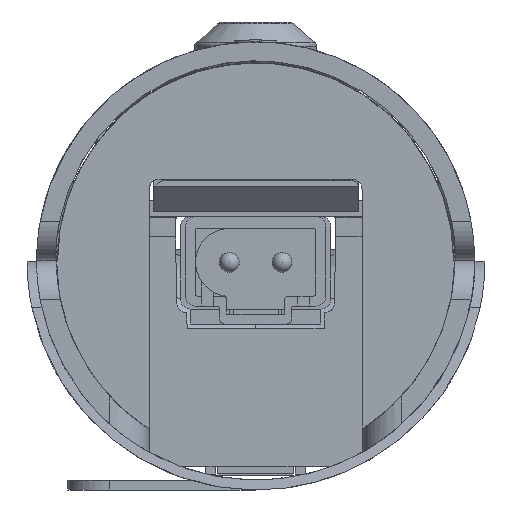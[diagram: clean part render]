
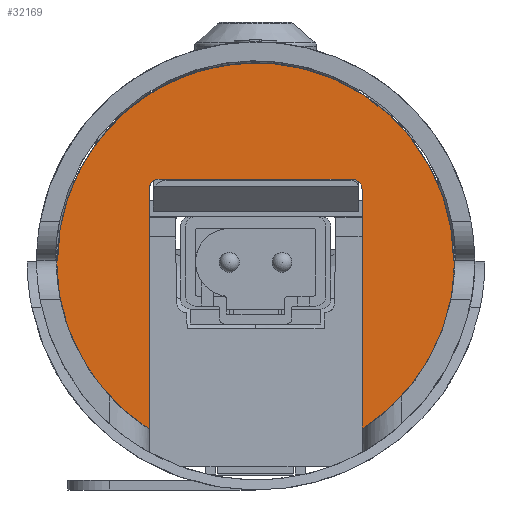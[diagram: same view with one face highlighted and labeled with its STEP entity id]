
A CAD part, left-side view. The second image highlights one B-rep face of the part: STEP entity #32169.
In plain terms, the highlighted planar face has unit normal (-1, 0, 0.009).
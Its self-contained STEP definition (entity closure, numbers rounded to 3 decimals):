
#7082=PLANE('',#36327);
#8395=ORIENTED_EDGE('',*,*,#17981,.T.);
#8396=ORIENTED_EDGE('',*,*,#17982,.T.);
#8397=ORIENTED_EDGE('',*,*,#17983,.T.);
#8398=ORIENTED_EDGE('',*,*,#17984,.F.);
#8399=ORIENTED_EDGE('',*,*,#17969,.T.);
#8400=ORIENTED_EDGE('',*,*,#17985,.T.);
#8401=ORIENTED_EDGE('',*,*,#17986,.F.);
#8402=ORIENTED_EDGE('',*,*,#17987,.F.);
#8403=ORIENTED_EDGE('',*,*,#17988,.F.);
#8404=ORIENTED_EDGE('',*,*,#17974,.T.);
#8405=ORIENTED_EDGE('',*,*,#17989,.F.);
#8406=ORIENTED_EDGE('',*,*,#17990,.T.);
#17969=EDGE_CURVE('',#23188,#23189,#26792,.T.);
#17974=EDGE_CURVE('',#23195,#23194,#26797,.T.);
#17981=EDGE_CURVE('',#23199,#23200,#26804,.T.);
#17982=EDGE_CURVE('',#23200,#23201,#26805,.T.);
#17983=EDGE_CURVE('',#23201,#23202,#26806,.T.);
#17984=EDGE_CURVE('',#23188,#23202,#26807,.F.);
#17985=EDGE_CURVE('',#23189,#23203,#26808,.T.);
#17986=EDGE_CURVE('',#23204,#23203,#26809,.F.);
#17987=EDGE_CURVE('',#23205,#23204,#26810,.F.);
#17988=EDGE_CURVE('',#23195,#23205,#26811,.F.);
#17989=EDGE_CURVE('',#23206,#23194,#26812,.F.);
#17990=EDGE_CURVE('',#23206,#23199,#26813,.T.);
#23188=VERTEX_POINT('',#45140);
#23189=VERTEX_POINT('',#45145);
#23194=VERTEX_POINT('',#45194);
#23195=VERTEX_POINT('',#45204);
#23199=VERTEX_POINT('',#45252);
#23200=VERTEX_POINT('',#45253);
#23201=VERTEX_POINT('',#45258);
#23202=VERTEX_POINT('',#45263);
#23203=VERTEX_POINT('',#45272);
#23204=VERTEX_POINT('',#45290);
#23205=VERTEX_POINT('',#45308);
#23206=VERTEX_POINT('',#45317);
#26792=B_SPLINE_CURVE_WITH_KNOTS('',3,(#45146,#45147,#45148,#45149,#45150,
#45151,#45152,#45153,#45154),.UNSPECIFIED.,.F.,.F.,(4,1,1,1,1,1,4),(0.,
0.25,0.375,0.5,0.625,0.75,1.),.UNSPECIFIED.);
#26797=B_SPLINE_CURVE_WITH_KNOTS('',3,(#45195,#45196,#45197,#45198,#45199,
#45200,#45201,#45202,#45203),.UNSPECIFIED.,.F.,.F.,(4,1,1,1,1,1,4),(0.,
0.25,0.375,0.5,0.625,0.75,1.),.UNSPECIFIED.);
#26804=B_SPLINE_CURVE_WITH_KNOTS('',3,(#45248,#45249,#45250,#45251),
 .UNSPECIFIED.,.F.,.F.,(4,4),(0.,1.),.UNSPECIFIED.);
#26805=B_SPLINE_CURVE_WITH_KNOTS('',3,(#45254,#45255,#45256,#45257),
 .UNSPECIFIED.,.F.,.F.,(4,4),(0.,1.),.UNSPECIFIED.);
#26806=B_SPLINE_CURVE_WITH_KNOTS('',3,(#45259,#45260,#45261,#45262),
 .UNSPECIFIED.,.F.,.F.,(4,4),(0.,1.),.UNSPECIFIED.);
#26807=B_SPLINE_CURVE_WITH_KNOTS('',3,(#45264,#45265,#45266,#45267),
 .UNSPECIFIED.,.F.,.F.,(4,4),(0.,1.),.UNSPECIFIED.);
#26808=B_SPLINE_CURVE_WITH_KNOTS('',3,(#45268,#45269,#45270,#45271),
 .UNSPECIFIED.,.F.,.F.,(4,4),(0.,1.),.UNSPECIFIED.);
#26809=B_SPLINE_CURVE_WITH_KNOTS('',3,(#45273,#45274,#45275,#45276,#45277,
#45278,#45279,#45280,#45281,#45282,#45283,#45284,#45285,#45286,#45287,#45288,
#45289),.UNSPECIFIED.,.F.,.F.,(4,1,1,1,1,1,1,1,1,1,1,1,1,1,4),(0.,0.125,
0.188,0.25,0.313,0.375,0.438,0.5,0.563,0.625,0.688,0.75,0.813,0.875,
1.),.UNSPECIFIED.);
#26810=B_SPLINE_CURVE_WITH_KNOTS('',3,(#45291,#45292,#45293,#45294,#45295,
#45296,#45297,#45298,#45299,#45300,#45301,#45302,#45303,#45304,#45305,#45306,
#45307),.UNSPECIFIED.,.F.,.F.,(4,1,1,1,1,1,1,1,1,1,1,1,1,1,4),(0.,0.125,
0.188,0.25,0.313,0.375,0.438,0.5,0.563,0.625,0.688,0.75,0.813,0.875,
1.),.UNSPECIFIED.);
#26811=B_SPLINE_CURVE_WITH_KNOTS('',3,(#45309,#45310,#45311,#45312),
 .UNSPECIFIED.,.F.,.F.,(4,4),(0.,1.),.UNSPECIFIED.);
#26812=B_SPLINE_CURVE_WITH_KNOTS('',3,(#45313,#45314,#45315,#45316),
 .UNSPECIFIED.,.F.,.F.,(4,4),(0.,1.),.UNSPECIFIED.);
#26813=B_SPLINE_CURVE_WITH_KNOTS('',3,(#45318,#45319,#45320,#45321),
 .UNSPECIFIED.,.F.,.F.,(4,4),(0.,1.),.UNSPECIFIED.);
#28394=EDGE_LOOP('',(#8395,#8396,#8397,#8398,#8399,#8400,#8401,#8402,#8403,
#8404,#8405,#8406));
#30188=FACE_BOUND('',#28394,.T.);
#32169=ADVANCED_FACE('',(#30188),#7082,.T.);
#36327=AXIS2_PLACEMENT_3D('',#45247,#38169,#38170);
#38169=DIRECTION('',(-1.,0.,0.009));
#38170=DIRECTION('',(-0.009,0.,-1.));
#45140=CARTESIAN_POINT('',(489.904,1.796,-22.946));
#45145=CARTESIAN_POINT('',(490.051,-7.504,-6.049));
#45146=CARTESIAN_POINT('',(489.904,1.796,-22.946));
#45147=CARTESIAN_POINT('',(489.912,0.348,-22.029));
#45148=CARTESIAN_POINT('',(489.926,-1.591,-20.433));
#45149=CARTESIAN_POINT('',(489.948,-3.707,-17.874));
#45150=CARTESIAN_POINT('',(489.967,-5.071,-15.717));
#45151=CARTESIAN_POINT('',(489.987,-6.163,-13.411));
#45152=CARTESIAN_POINT('',(490.015,-7.193,-10.255));
#45153=CARTESIAN_POINT('',(490.036,-7.504,-7.762));
#45154=CARTESIAN_POINT('',(490.051,-7.504,-6.049));
#45194=CARTESIAN_POINT('',(489.904,23.196,-22.946));
#45195=CARTESIAN_POINT('',(490.051,32.496,-6.049));
#45196=CARTESIAN_POINT('',(490.036,32.496,-7.762));
#45197=CARTESIAN_POINT('',(490.015,32.185,-10.254));
#45198=CARTESIAN_POINT('',(489.987,31.155,-13.411));
#45199=CARTESIAN_POINT('',(489.967,30.062,-15.717));
#45200=CARTESIAN_POINT('',(489.948,28.699,-17.874));
#45201=CARTESIAN_POINT('',(489.926,26.583,-20.433));
#45202=CARTESIAN_POINT('',(489.912,24.644,-22.029));
#45203=CARTESIAN_POINT('',(489.904,23.196,-22.946));
#45204=CARTESIAN_POINT('',(490.051,32.496,-6.049));
#45247=CARTESIAN_POINT('',(489.872,10.484,-26.638));
#45248=CARTESIAN_POINT('',(490.123,22.196,2.151));
#45249=CARTESIAN_POINT('',(490.123,18.963,2.151));
#45250=CARTESIAN_POINT('',(490.123,15.729,2.151));
#45251=CARTESIAN_POINT('',(490.123,12.496,2.151));
#45252=CARTESIAN_POINT('',(490.123,22.196,2.151));
#45253=CARTESIAN_POINT('',(490.123,12.496,2.151));
#45254=CARTESIAN_POINT('',(490.123,12.496,2.151));
#45255=CARTESIAN_POINT('',(490.123,9.263,2.151));
#45256=CARTESIAN_POINT('',(490.123,6.029,2.151));
#45257=CARTESIAN_POINT('',(490.123,2.796,2.151));
#45258=CARTESIAN_POINT('',(490.123,2.796,2.151));
#45259=CARTESIAN_POINT('',(490.123,2.796,2.151));
#45260=CARTESIAN_POINT('',(490.123,2.246,2.151));
#45261=CARTESIAN_POINT('',(490.119,1.796,1.706));
#45262=CARTESIAN_POINT('',(490.114,1.796,1.151));
#45263=CARTESIAN_POINT('',(490.114,1.796,1.151));
#45264=CARTESIAN_POINT('',(490.114,1.796,1.151));
#45265=CARTESIAN_POINT('',(490.044,1.796,-6.881));
#45266=CARTESIAN_POINT('',(489.974,1.796,-14.914));
#45267=CARTESIAN_POINT('',(489.904,1.796,-22.946));
#45268=CARTESIAN_POINT('',(490.051,-7.504,-6.049));
#45269=CARTESIAN_POINT('',(490.051,-7.471,-6.049));
#45270=CARTESIAN_POINT('',(490.051,-7.437,-6.049));
#45271=CARTESIAN_POINT('',(490.051,-7.404,-6.049));
#45272=CARTESIAN_POINT('',(490.051,-7.404,-6.049));
#45273=CARTESIAN_POINT('',(490.051,-7.404,-6.049));
#45274=CARTESIAN_POINT('',(490.062,-7.404,-4.779));
#45275=CARTESIAN_POINT('',(490.079,-7.231,-2.915));
#45276=CARTESIAN_POINT('',(490.1,-6.644,-0.487));
#45277=CARTESIAN_POINT('',(490.115,-6.049,1.257));
#45278=CARTESIAN_POINT('',(490.131,-5.203,3.117));
#45279=CARTESIAN_POINT('',(490.146,-4.189,4.846));
#45280=CARTESIAN_POINT('',(490.161,-2.961,6.538));
#45281=CARTESIAN_POINT('',(490.174,-1.6,8.047));
#45282=CARTESIAN_POINT('',(490.186,-0.092,9.409));
#45283=CARTESIAN_POINT('',(490.197,1.598,10.636));
#45284=CARTESIAN_POINT('',(490.206,3.325,11.649));
#45285=CARTESIAN_POINT('',(490.213,5.191,12.496));
#45286=CARTESIAN_POINT('',(490.218,6.936,13.091));
#45287=CARTESIAN_POINT('',(490.223,9.365,13.679));
#45288=CARTESIAN_POINT('',(490.225,11.228,13.851));
#45289=CARTESIAN_POINT('',(490.225,12.496,13.851));
#45290=CARTESIAN_POINT('',(490.225,12.496,13.851));
#45291=CARTESIAN_POINT('',(490.225,12.496,13.851));
#45292=CARTESIAN_POINT('',(490.225,13.763,13.851));
#45293=CARTESIAN_POINT('',(490.223,15.626,13.678));
#45294=CARTESIAN_POINT('',(490.218,18.055,13.091));
#45295=CARTESIAN_POINT('',(490.213,19.801,12.496));
#45296=CARTESIAN_POINT('',(490.206,21.665,11.65));
#45297=CARTESIAN_POINT('',(490.197,23.395,10.636));
#45298=CARTESIAN_POINT('',(490.186,25.083,9.41));
#45299=CARTESIAN_POINT('',(490.174,26.592,8.047));
#45300=CARTESIAN_POINT('',(490.161,27.952,6.538));
#45301=CARTESIAN_POINT('',(490.146,29.181,4.845));
#45302=CARTESIAN_POINT('',(490.131,30.194,3.118));
#45303=CARTESIAN_POINT('',(490.115,31.041,1.256));
#45304=CARTESIAN_POINT('',(490.1,31.636,-0.486));
#45305=CARTESIAN_POINT('',(490.079,32.223,-2.914));
#45306=CARTESIAN_POINT('',(490.062,32.396,-4.778));
#45307=CARTESIAN_POINT('',(490.051,32.396,-6.049));
#45308=CARTESIAN_POINT('',(490.051,32.396,-6.049));
#45309=CARTESIAN_POINT('',(490.051,32.396,-6.049));
#45310=CARTESIAN_POINT('',(490.051,32.429,-6.049));
#45311=CARTESIAN_POINT('',(490.051,32.463,-6.049));
#45312=CARTESIAN_POINT('',(490.051,32.496,-6.049));
#45313=CARTESIAN_POINT('',(489.904,23.196,-22.946));
#45314=CARTESIAN_POINT('',(489.974,23.196,-14.914));
#45315=CARTESIAN_POINT('',(490.044,23.196,-6.881));
#45316=CARTESIAN_POINT('',(490.114,23.196,1.151));
#45317=CARTESIAN_POINT('',(490.114,23.196,1.151));
#45318=CARTESIAN_POINT('',(490.114,23.196,1.151));
#45319=CARTESIAN_POINT('',(490.119,23.196,1.701));
#45320=CARTESIAN_POINT('',(490.123,22.75,2.151));
#45321=CARTESIAN_POINT('',(490.123,22.196,2.151));
